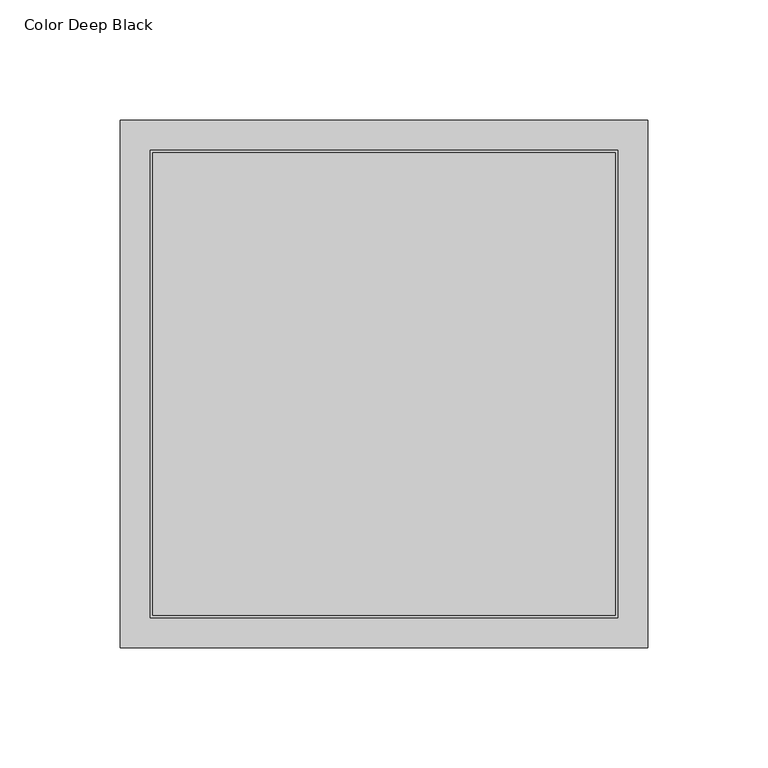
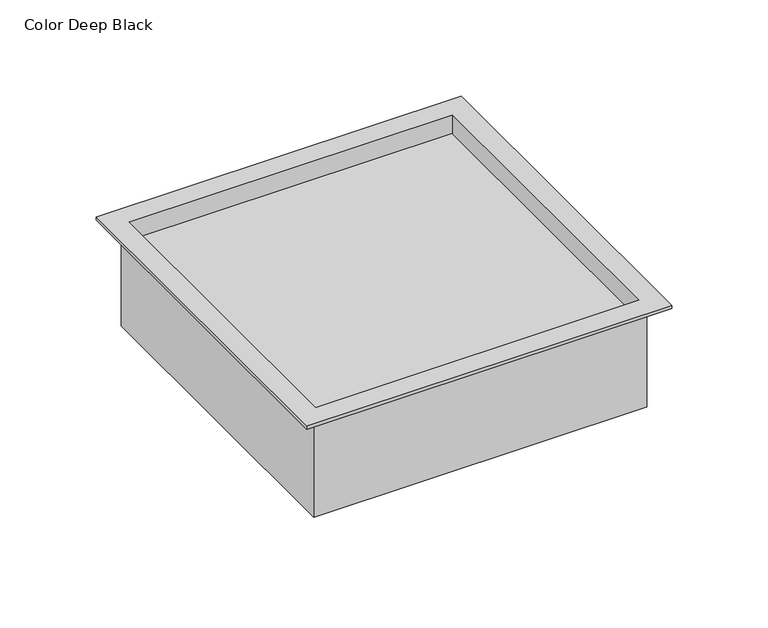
"""IFC4 building model written with IfcOpenShell, lengths in millimetres: proxy geometry, Electrical_Installation_Hager_VE-EE_Cover-VDQ06 : Color Deep Black."""

from ifc_helpers import new_model, si_unit, frame, origin, place, context, project, spatial, polyline, outline, extrude, faceted_brep, source, transform, mapped, element, save


def color_deep_black_894d2ac0(model_context):
    return source(origin(), model_context, "Body", "SolidModel", [
        faceted_brep([(109.5, 109.5, 2.0), (-109.5, 109.5, 2.0), (-109.5, -109.5, 2.0), (109.5, -109.5, 2.0), (97.0, 97.0195312, 2.0), (97.0, -97.0195312, 2.0), (-97.0, -97.0195312, 2.0), (-97.0, 97.0195312, 2.0), (109.5, 109.5, 0.0), (109.5, -109.5, 0.0), (-109.5, -109.5, 0.0), (-109.5, 109.5, 0.0), (100.0, 100.0, 0.0), (-100.0, 100.0, 0.0), (-100.0, -100.0, 0.0), (100.0, -100.0, 0.0), (-97.0, 97.0195312, -65.0), (97.0, 97.0195312, -65.0), (-97.0, -97.0195312, -65.0), (97.0, -97.0195312, -65.0), (100.0, 100.0, -65.0), (100.0, -100.0, -65.0), (-100.0, -100.0, -65.0), (-100.0, 100.0, -65.0)], [[[0, 1, 2, 3], [4, 5, 6, 7]], [[8, 9, 10, 11], [12, 13, 14, 15]], [[4, 7, 16, 17]], [[16, 7, 6, 18]], [[18, 6, 5, 19]], [[19, 5, 4, 17]], [[1, 0, 8, 11]], [[2, 1, 11, 10]], [[3, 2, 10, 9]], [[0, 3, 9, 8]], [[20, 21, 22, 23], [17, 16, 18, 19]], [[20, 23, 13, 12]], [[23, 22, 14, 13]], [[22, 21, 15, 14]], [[21, 20, 12, 15]]]),
        extrude(outline(polyline([(-97.0, -97.0195312), (-97.0, 97.0195312), (97.0, 97.0195312), (97.0, -97.0195312), (-97.0, -97.0195312)])), frame((0.0, 0.0, -15.0), z_axis=(0.0, 0.0, 1.0), x_axis=(1.0, 0.0, 0.0)), (0.0, 0.0, 1.0), 5.0),
        extrude(outline(polyline([(-96.0, 96.0), (96.0, 96.0), (96.0, -96.0), (-96.0, -96.0), (-96.0, 96.0)])), frame((0.0, 0.0, -10.0), z_axis=(0.0, 0.0, 1.0), x_axis=(1.0, 0.0, 0.0)), (0.0, 0.0, 1.0), 1.0),
    ])


if __name__ == "__main__":
    model = new_model("IFC4")
    model_context = context("Model", 3, world=origin())
    ifc_project = project(units=[si_unit("LENGTHUNIT", "METRE", prefix="MILLI")], contexts=[model_context])
    site = spatial("IfcSite", under=ifc_project)
    building = spatial("IfcBuilding", under=site)
    placement = place(None, origin())
    color_deep_black_shape = color_deep_black_894d2ac0(model_context)
    element("IfcBuildingElementProxy", 1, Name="Electrical_Installation_Hager_VE-EE_Cover-VDQ06 : Color Deep Black", ObjectType="Electrical_Installation_Hager_VE-EE_Cover-VDQ06 : Color Deep Black", at=placement, inside=building, context=model_context, shape_type="MappedRepresentation", body=[
        mapped(color_deep_black_shape, transform((0.0, 0.0, 0.0), x_axis=(1.0, 0.0, 0.0), y_axis=(0.0, 1.0, 0.0), z_axis=(0.0, 0.0, 1.0))),
    ])
    save(model, "model.ifc")
